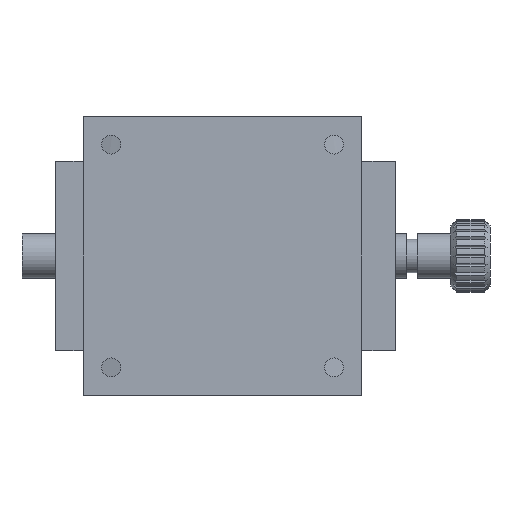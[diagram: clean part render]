
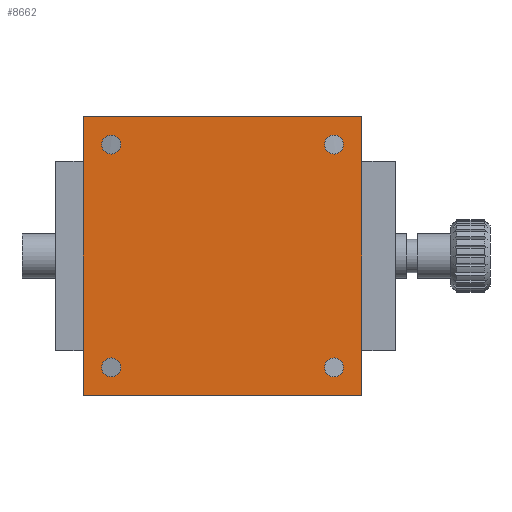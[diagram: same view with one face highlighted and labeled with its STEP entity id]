
A CAD part, front view. The second image highlights one B-rep face of the part: STEP entity #8662.
In plain terms, the highlighted planar face has unit normal (0, -1, 0).
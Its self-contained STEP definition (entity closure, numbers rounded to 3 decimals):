
#667 = CIRCLE ( 'NONE', #17781, 1.7 ) ;
#860 = EDGE_CURVE ( 'NONE', #11758, #8570, #15879, .T. ) ;
#939 = LINE ( 'NONE', #15985, #16034 ) ;
#1063 = ORIENTED_EDGE ( 'NONE', *, *, #24609, .F. ) ;
#1107 = CARTESIAN_POINT ( 'NONE',  ( 20., 0., 18.3 ) ) ;
#1171 = EDGE_LOOP ( 'NONE', ( #18745, #12599, #16726, #1063 ) ) ;
#1280 = DIRECTION ( 'NONE',  ( 0., 0., 1. ) ) ;
#1730 = DIRECTION ( 'NONE',  ( 0., 0., 1. ) ) ;
#1749 = DIRECTION ( 'NONE',  ( 0., 0., 1. ) ) ;
#1844 = CARTESIAN_POINT ( 'NONE',  ( -20., 0., 20. ) ) ;
#1899 = CARTESIAN_POINT ( 'NONE',  ( 20., 0., 20. ) ) ;
#1998 = AXIS2_PLACEMENT_3D ( 'NONE', #23496, #15308, #17471 ) ;
#2170 = CARTESIAN_POINT ( 'NONE',  ( 20., 0., -21.7 ) ) ;
#2236 = EDGE_CURVE ( 'NONE', #8570, #11758, #3116, .T. ) ;
#2264 = CARTESIAN_POINT ( 'NONE',  ( -25., 0., 25. ) ) ;
#2317 = ORIENTED_EDGE ( 'NONE', *, *, #11355, .T. ) ;
#2923 = AXIS2_PLACEMENT_3D ( 'NONE', #18001, #11871, #1730 ) ;
#3116 = CIRCLE ( 'NONE', #6851, 1.7 ) ;
#3219 = CARTESIAN_POINT ( 'NONE',  ( 25., 0., 25. ) ) ;
#3670 = DIRECTION ( 'NONE',  ( -1., 0., 0. ) ) ;
#3928 = DIRECTION ( 'NONE',  ( 1., 0., 0. ) ) ;
#4112 = LINE ( 'NONE', #3219, #25331 ) ;
#5000 = EDGE_CURVE ( 'NONE', #26684, #22660, #24831, .T. ) ;
#5005 = CARTESIAN_POINT ( 'NONE',  ( -20., 0., -20. ) ) ;
#5232 = AXIS2_PLACEMENT_3D ( 'NONE', #21532, #23591, #11283 ) ;
#5644 = CARTESIAN_POINT ( 'NONE',  ( 25., 0., -25. ) ) ;
#5761 = EDGE_LOOP ( 'NONE', ( #21064, #21573 ) ) ;
#5768 = AXIS2_PLACEMENT_3D ( 'NONE', #16456, #16084, #18343 ) ;
#5815 = CARTESIAN_POINT ( 'NONE',  ( -20., 0., 18.3 ) ) ;
#5980 = VERTEX_POINT ( 'NONE', #2170 ) ;
#6603 = CIRCLE ( 'NONE', #21270, 1.7 ) ;
#6651 = EDGE_CURVE ( 'NONE', #19513, #9857, #11903, .T. ) ;
#6851 = AXIS2_PLACEMENT_3D ( 'NONE', #1844, #7681, #1749 ) ;
#6854 = VECTOR ( 'NONE', #3928, 1000. ) ;
#7239 = EDGE_CURVE ( 'NONE', #18875, #8456, #667, .T. ) ;
#7470 = DIRECTION ( 'NONE',  ( 0., 1., 0. ) ) ;
#7681 = DIRECTION ( 'NONE',  ( 0., 1., 0. ) ) ;
#7757 = VECTOR ( 'NONE', #16371, 1000. ) ;
#7963 = CARTESIAN_POINT ( 'NONE',  ( -20., 0., -21.7 ) ) ;
#7971 = CARTESIAN_POINT ( 'NONE',  ( 20., 0., 21.7 ) ) ;
#8014 = CIRCLE ( 'NONE', #17814, 1.7 ) ;
#8280 = VERTEX_POINT ( 'NONE', #5644 ) ;
#8456 = VERTEX_POINT ( 'NONE', #7971 ) ;
#8570 = VERTEX_POINT ( 'NONE', #21277 ) ;
#8662 = ADVANCED_FACE ( 'NONE', ( #19221, #25953, #15337, #8877, #18527 ), #15585, .T. ) ;
#8877 = FACE_BOUND ( 'NONE', #19177, .T. ) ;
#8982 = CARTESIAN_POINT ( 'NONE',  ( 20., 0., -18.3 ) ) ;
#9375 = EDGE_CURVE ( 'NONE', #22709, #26684, #18058, .T. ) ;
#9452 = DIRECTION ( 'NONE',  ( 0., 1., 0. ) ) ;
#9587 = CARTESIAN_POINT ( 'NONE',  ( -20., 0., -18.3 ) ) ;
#9817 = ORIENTED_EDGE ( 'NONE', *, *, #7239, .T. ) ;
#9857 = VERTEX_POINT ( 'NONE', #9587 ) ;
#10588 = CIRCLE ( 'NONE', #5768, 1.7 ) ;
#10747 = DIRECTION ( 'NONE',  ( 0., 0., 1. ) ) ;
#10876 = EDGE_CURVE ( 'NONE', #8456, #18875, #8014, .T. ) ;
#11276 = ORIENTED_EDGE ( 'NONE', *, *, #10876, .T. ) ;
#11283 = DIRECTION ( 'NONE',  ( 0., 0., -1. ) ) ;
#11355 = EDGE_CURVE ( 'NONE', #9857, #19513, #10588, .T. ) ;
#11758 = VERTEX_POINT ( 'NONE', #5815 ) ;
#11851 = DIRECTION ( 'NONE',  ( 0., 1., 0. ) ) ;
#11871 = DIRECTION ( 'NONE',  ( 0., 1., 0. ) ) ;
#11903 = CIRCLE ( 'NONE', #22222, 1.7 ) ;
#12316 = EDGE_LOOP ( 'NONE', ( #16891, #21590 ) ) ;
#12599 = ORIENTED_EDGE ( 'NONE', *, *, #5000, .F. ) ;
#13396 = EDGE_CURVE ( 'NONE', #5980, #17373, #23338, .T. ) ;
#14081 = CARTESIAN_POINT ( 'NONE',  ( -25., 0., 25. ) ) ;
#15308 = DIRECTION ( 'NONE',  ( 0., 1., 0. ) ) ;
#15337 = FACE_BOUND ( 'NONE', #12316, .T. ) ;
#15582 = CARTESIAN_POINT ( 'NONE',  ( 20., 0., 20. ) ) ;
#15585 = PLANE ( 'NONE',  #5232 ) ;
#15879 = CIRCLE ( 'NONE', #1998, 1.7 ) ;
#15985 = CARTESIAN_POINT ( 'NONE',  ( -25., 0., -25. ) ) ;
#16034 = VECTOR ( 'NONE', #3670, 1000. ) ;
#16078 = DIRECTION ( 'NONE',  ( 0., 0., 1. ) ) ;
#16084 = DIRECTION ( 'NONE',  ( 0., 1., 0. ) ) ;
#16371 = DIRECTION ( 'NONE',  ( 0., 0., 1. ) ) ;
#16456 = CARTESIAN_POINT ( 'NONE',  ( -20., 0., -20. ) ) ;
#16726 = ORIENTED_EDGE ( 'NONE', *, *, #9375, .F. ) ;
#16891 = ORIENTED_EDGE ( 'NONE', *, *, #2236, .T. ) ;
#17373 = VERTEX_POINT ( 'NONE', #8982 ) ;
#17471 = DIRECTION ( 'NONE',  ( 0., 0., 1. ) ) ;
#17599 = DIRECTION ( 'NONE',  ( 0., 0., -1. ) ) ;
#17781 = AXIS2_PLACEMENT_3D ( 'NONE', #1899, #11851, #16078 ) ;
#17814 = AXIS2_PLACEMENT_3D ( 'NONE', #15582, #9452, #20344 ) ;
#17999 = ORIENTED_EDGE ( 'NONE', *, *, #6651, .T. ) ;
#18001 = CARTESIAN_POINT ( 'NONE',  ( 20., 0., -20. ) ) ;
#18058 = LINE ( 'NONE', #2264, #7757 ) ;
#18343 = DIRECTION ( 'NONE',  ( 0., 0., 1. ) ) ;
#18527 = FACE_OUTER_BOUND ( 'NONE', #1171, .T. ) ;
#18745 = ORIENTED_EDGE ( 'NONE', *, *, #26443, .F. ) ;
#18875 = VERTEX_POINT ( 'NONE', #1107 ) ;
#19049 = DIRECTION ( 'NONE',  ( 0., 1., 0. ) ) ;
#19177 = EDGE_LOOP ( 'NONE', ( #2317, #17999 ) ) ;
#19221 = FACE_BOUND ( 'NONE', #5761, .T. ) ;
#19513 = VERTEX_POINT ( 'NONE', #7963 ) ;
#19801 = CARTESIAN_POINT ( 'NONE',  ( 25., 0., 25. ) ) ;
#19897 = CARTESIAN_POINT ( 'NONE',  ( -25., 0., -25. ) ) ;
#20344 = DIRECTION ( 'NONE',  ( 0., 0., 1. ) ) ;
#20727 = EDGE_CURVE ( 'NONE', #17373, #5980, #6603, .T. ) ;
#21064 = ORIENTED_EDGE ( 'NONE', *, *, #20727, .T. ) ;
#21270 = AXIS2_PLACEMENT_3D ( 'NONE', #25781, #7470, #1280 ) ;
#21277 = CARTESIAN_POINT ( 'NONE',  ( -20., 0., 21.7 ) ) ;
#21532 = CARTESIAN_POINT ( 'NONE',  ( 0., 0., 0. ) ) ;
#21573 = ORIENTED_EDGE ( 'NONE', *, *, #13396, .T. ) ;
#21590 = ORIENTED_EDGE ( 'NONE', *, *, #860, .T. ) ;
#22222 = AXIS2_PLACEMENT_3D ( 'NONE', #5005, #19049, #10747 ) ;
#22655 = EDGE_LOOP ( 'NONE', ( #11276, #9817 ) ) ;
#22660 = VERTEX_POINT ( 'NONE', #19801 ) ;
#22709 = VERTEX_POINT ( 'NONE', #19897 ) ;
#23338 = CIRCLE ( 'NONE', #2923, 1.7 ) ;
#23496 = CARTESIAN_POINT ( 'NONE',  ( -20., 0., 20. ) ) ;
#23591 = DIRECTION ( 'NONE',  ( 0., -1., 0. ) ) ;
#24609 = EDGE_CURVE ( 'NONE', #8280, #22709, #939, .T. ) ;
#24831 = LINE ( 'NONE', #14081, #6854 ) ;
#25331 = VECTOR ( 'NONE', #17599, 1000. ) ;
#25781 = CARTESIAN_POINT ( 'NONE',  ( 20., 0., -20. ) ) ;
#25953 = FACE_BOUND ( 'NONE', #22655, .T. ) ;
#26443 = EDGE_CURVE ( 'NONE', #22660, #8280, #4112, .T. ) ;
#26567 = CARTESIAN_POINT ( 'NONE',  ( -25., 0., 25. ) ) ;
#26684 = VERTEX_POINT ( 'NONE', #26567 ) ;
